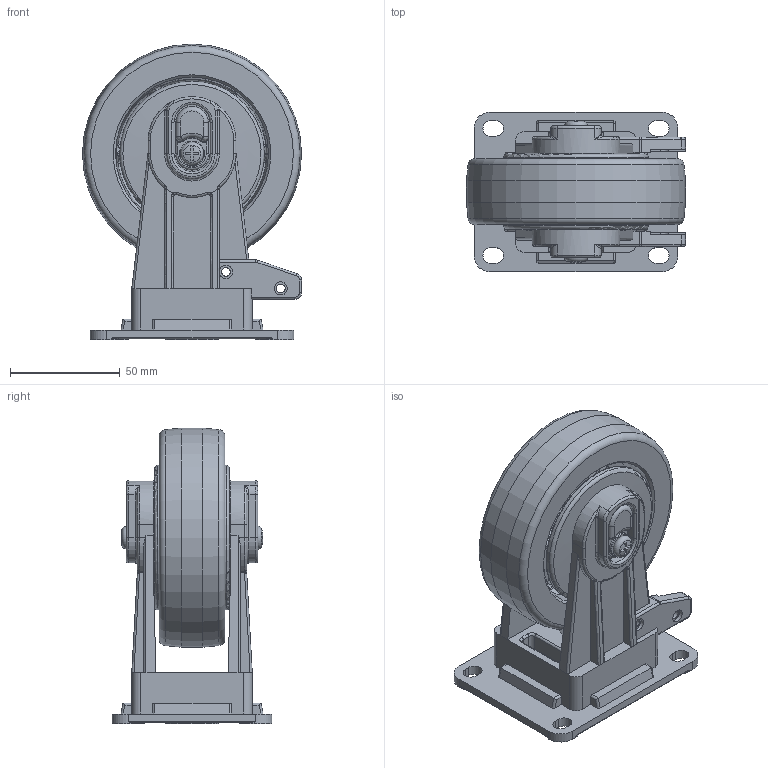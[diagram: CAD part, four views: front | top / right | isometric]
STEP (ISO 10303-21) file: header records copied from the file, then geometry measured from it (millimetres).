
FILE_DESCRIPTION((''),'2;1');
FILE_NAME('C:\Documents and Settings\Administrator\바탕 화면\2011년도\도면 및 견적서 발송\지덕 전체도면\3D도면\GDC\GDC-100-ARF\GDC-100 ARF.stp','2012-02-03T09:17:03',('Administrator'),(''),'Autodesk Inventor 2009','Autodesk Inventor 2009','');
FILE_SCHEMA(('AUTOMOTIVE_DESIGN { 1 0 10303 214 1 1 1 1 }'));
Length unit declared in the file: millimetre
Products named in the file (1): GDC-100 ARF
Bounding box: 100 x 73.01 x 135 mm (x, y, z)
Volume: 288876.1 mm3; surface area: 96042.5 mm2
Topology: 6 solids, 6 shells, 987 faces, 2417 edges, 1460 vertices
Faces by surface type: bspline 297, plane 291, cylinder 241, torus 90, cone 64, sphere 4
Full cylindrical faces by diameter (mm): 4 x4, 4.917 x1, 6 x5, 7.9 x1, 8 x4, 8.4 x4, 10.2 x1, 11.5 x1, 12 x4, 13 x1, 13.966 x2, 15 x1, 18 x4, 19 x1, 22 x4, 24 x1, 61 x3, 66 x2, 100 x1
Entity records: 47768 total; most frequent: CARTESIAN_POINT 26557, ORIENTED_EDGE 4406, DIRECTION 4314, EDGE_CURVE 2203, AXIS2_PLACEMENT_3D 1809, VERTEX_POINT 1387, EDGE_LOOP 1162, CIRCLE 996
